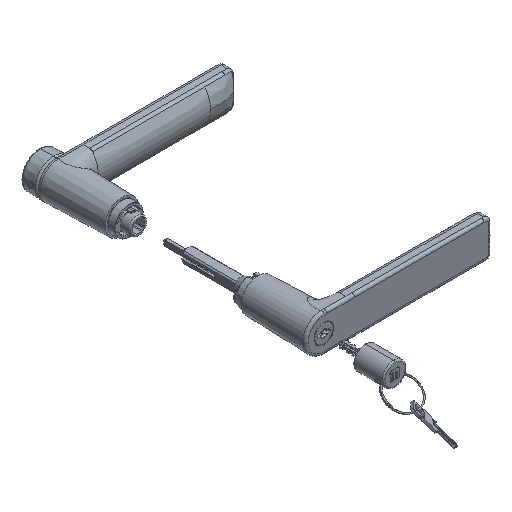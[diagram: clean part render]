
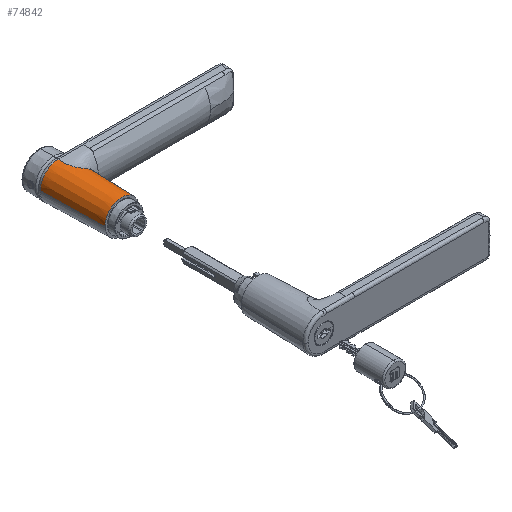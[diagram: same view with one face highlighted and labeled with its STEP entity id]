
A CAD part, isometric view. The second image highlights one B-rep face of the part: STEP entity #74842.
In plain terms, the highlighted conical face has half-angle 1.5 degrees and reference radius 12.974 mm.
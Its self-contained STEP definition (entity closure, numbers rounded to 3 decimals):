
#61366=CARTESIAN_POINT('',(0.,0.,
0.008));
#61367=DIRECTION('',(0.,-1.,0.));
#61368=DIRECTION('',(-1.,0.,0.));
#61369=AXIS2_PLACEMENT_3D('',#61366,#61367,#61368);
#61386=DIRECTION('',(0.017,-1.,-0.02));
#61387=VECTOR('',#61386,30.837);
#61388=CARTESIAN_POINT('',(7.895,0.,
-9.51));
#61389=LINE('',#61388,#61387);
#61423=DIRECTION('',(-0.026,-1.,0.));
#61424=VECTOR('',#61423,46.417);
#61425=CARTESIAN_POINT('',(-12.366,0.,
0.003));
#61426=LINE('',#61425,#61424);
#61427=CARTESIAN_POINT('',(0.,-46.401,
0.008));
#61428=DIRECTION('',(0.,-1.,0.));
#61429=DIRECTION('',(-1.,0.,0.));
#61430=AXIS2_PLACEMENT_3D('',#61427,#61428,#61429);
#62966=CARTESIAN_POINT('',(8.411,-30.827,
-10.132));
#62967=CARTESIAN_POINT('',(8.309,-30.845,
-10.216));
#62968=CARTESIAN_POINT('',(8.107,-30.884,
-10.38));
#62969=CARTESIAN_POINT('',(7.819,-30.949,
-10.601));
#62970=CARTESIAN_POINT('',(7.508,-31.026,
-10.826));
#62971=CARTESIAN_POINT('',(7.254,-31.092,
-10.999));
#62972=CARTESIAN_POINT('',(6.92,-31.183,
-11.216));
#62973=CARTESIAN_POINT('',(6.527,-31.295,
-11.453));
#62974=CARTESIAN_POINT('',(6.155,-31.408,
-11.659));
#62975=CARTESIAN_POINT('',(5.809,-31.519,
-11.838));
#62976=CARTESIAN_POINT('',(5.506,-31.621,
-11.985));
#62977=CARTESIAN_POINT('',(5.144,-31.757,
-12.148));
#62978=CARTESIAN_POINT('',(4.832,-31.891,
-12.279));
#62979=CARTESIAN_POINT('',(4.53,-32.038,
-12.398));
#62980=CARTESIAN_POINT('',(4.269,-32.18,
-12.494));
#62981=CARTESIAN_POINT('',(4.,-32.345,
-12.587));
#62982=CARTESIAN_POINT('',(3.801,-32.482,
-12.651));
#62983=CARTESIAN_POINT('',(3.582,-32.644,
-12.72));
#62984=CARTESIAN_POINT('',(3.342,-32.835,
-12.79));
#62985=CARTESIAN_POINT('',(3.108,-33.031,
-12.854));
#62986=CARTESIAN_POINT('',(2.882,-33.231,
-12.912));
#62987=CARTESIAN_POINT('',(2.636,-33.461,
-12.971));
#62988=CARTESIAN_POINT('',(2.352,-33.755,
-13.033));
#62989=CARTESIAN_POINT('',(2.099,-34.046,
-13.084));
#62990=CARTESIAN_POINT('',(1.867,-34.344,
-13.127));
#62991=CARTESIAN_POINT('',(1.65,-34.655,
-13.164));
#62992=CARTESIAN_POINT('',(1.438,-35.,
-13.198));
#62993=CARTESIAN_POINT('',(1.279,-35.286,
-13.221));
#62994=CARTESIAN_POINT('',(1.088,-35.66,
-13.249));
#62995=CARTESIAN_POINT('',(0.866,-36.151,
-13.278));
#62996=CARTESIAN_POINT('',(0.68,-36.619,
-13.301));
#62997=CARTESIAN_POINT('',(0.492,-37.157,
-13.323));
#62998=CARTESIAN_POINT('',(0.316,-37.757,
-13.344));
#62999=CARTESIAN_POINT('',(0.159,-38.38,
-13.363));
#63000=CARTESIAN_POINT('',(0.014,-39.062,
-13.382));
#63001=CARTESIAN_POINT('',(-0.081,-39.595,
-13.395));
#63002=CARTESIAN_POINT('',(-0.147,-40.01,
-13.406));
#63003=CARTESIAN_POINT('',(-0.215,-40.487,
-13.417));
#63004=CARTESIAN_POINT('',(-0.258,-40.83,
-13.426));
#63005=CARTESIAN_POINT('',(-0.297,-41.156,
-13.433));
#63006=CARTESIAN_POINT('',(-0.331,-41.473,
-13.441));
#63007=CARTESIAN_POINT('',(-0.358,-41.747,
-13.447));
#63008=CARTESIAN_POINT('',(-0.387,-42.065,
-13.455));
#63009=CARTESIAN_POINT('',(-0.42,-42.47,
-13.464));
#63010=CARTESIAN_POINT('',(-0.448,-42.849,
-13.473));
#63011=CARTESIAN_POINT('',(-0.476,-43.289,
-13.484));
#63012=CARTESIAN_POINT('',(-0.506,-43.829,
-13.497));
#63013=CARTESIAN_POINT('',(-0.527,-44.264,
-13.508));
#63014=CARTESIAN_POINT('',(-0.548,-44.789,
-13.521));
#63015=CARTESIAN_POINT('',(-0.564,-45.292,
-13.533));
#63016=CARTESIAN_POINT('',(-0.578,-45.806,
-13.546));
#63017=CARTESIAN_POINT('',(-0.587,-46.197,
-13.556));
#63018=CARTESIAN_POINT('',(-0.591,-46.401,
-13.561));
#63071=CARTESIAN_POINT('',(-13.582,-46.401,
0.003));
#70403=VERTEX_POINT('',#63071);
#70404=CARTESIAN_POINT('',(-0.591,-46.401,
-13.561));
#70405=VERTEX_POINT('',#70404);
#70407=CARTESIAN_POINT('',(-12.366,0.,
0.003));
#70408=CARTESIAN_POINT('',(7.895,0.,
-9.51));
#70409=VERTEX_POINT('',#70407);
#70410=VERTEX_POINT('',#70408);
#70411=VERTEX_POINT('',#62966);
#74827=CARTESIAN_POINT('',(0.,-23.2,
0.008));
#74828=DIRECTION('',(0.,-1.,0.));
#74829=DIRECTION('',(-0.638,0.,0.77));
#74830=AXIS2_PLACEMENT_3D('',#74827,#74828,#74829);
#74831=CONICAL_SURFACE('',#74830,12.974,1.5);
#74832=ORIENTED_EDGE('',*,*,#74577,.F.);
#74834=ORIENTED_EDGE('',*,*,#74833,.T.);
#74836=ORIENTED_EDGE('',*,*,#74835,.T.);
#74838=ORIENTED_EDGE('',*,*,#74837,.F.);
#74839=ORIENTED_EDGE('',*,*,#74811,.F.);
#74840=EDGE_LOOP('',(#74832,#74834,#74836,#74838,#74839));
#74841=FACE_OUTER_BOUND('',#74840,.F.);
#74842=ADVANCED_FACE('',(#74841),#74831,.T.);
#61370=CIRCLE('',#61369,12.366);
#61431=CIRCLE('',#61430,13.582);
#63019=B_SPLINE_CURVE_WITH_KNOTS('',3,(#62966,#62967,#62968,#62969,#62970,
#62971,#62972,#62973,#62974,#62975,#62976,#62977,#62978,#62979,#62980,#62981,
#62982,#62983,#62984,#62985,#62986,#62987,#62988,#62989,#62990,#62991,#62992,
#62993,#62994,#62995,#62996,#62997,#62998,#62999,#63000,#63001,#63002,#63003,
#63004,#63005,#63006,#63007,#63008,#63009,#63010,#63011,#63012,#63013,#63014,
#63015,#63016,#63017,#63018),.UNSPECIFIED.,.F.,.F.,(4,1,1,1,1,1,1,1,1,1,1,1,1,1,
1,1,1,1,1,1,1,1,1,1,1,1,1,1,1,1,1,1,1,1,1,1,1,1,1,1,1,1,1,1,1,1,1,1,1,1,4),
(0.,0.02,0.04,0.06,0.08,0.1,0.12,0.14,0.16,0.18,0.2,0.22,
0.24,0.26,0.28,0.3,0.32,0.34,0.36,0.38,0.4,0.42,0.44,
0.46,0.48,0.5,0.52,0.54,0.56,0.58,0.6,0.62,0.64,0.66,
0.68,0.7,0.72,0.74,0.76,0.78,0.8,0.82,0.84,0.86,0.88,
0.9,0.92,0.94,0.96,0.98,1.),.UNSPECIFIED.);
#74577=EDGE_CURVE('',#70409,#70410,#61370,.T.);
#74811=EDGE_CURVE('',#70410,#70411,#61389,.T.);
#74833=EDGE_CURVE('',#70409,#70403,#61426,.T.);
#74835=EDGE_CURVE('',#70403,#70405,#61431,.T.);
#74837=EDGE_CURVE('',#70411,#70405,#63019,.T.);
